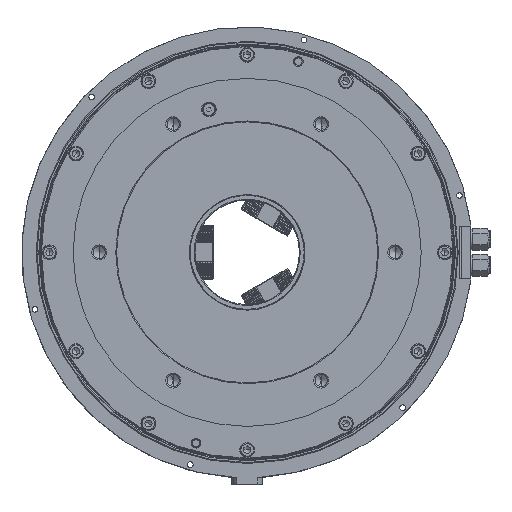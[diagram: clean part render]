
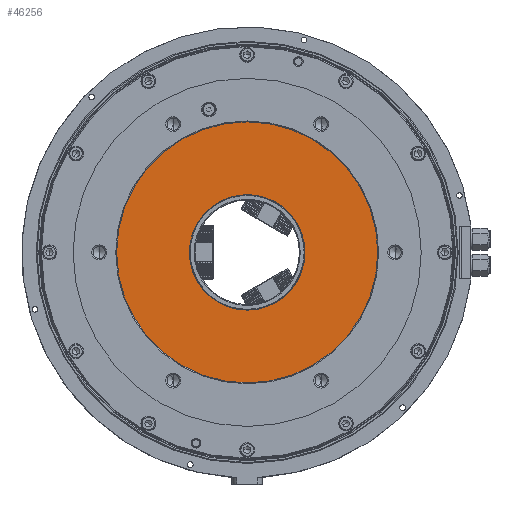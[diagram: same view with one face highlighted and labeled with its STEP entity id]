
A CAD part, left-side view. The second image highlights one B-rep face of the part: STEP entity #46256.
In plain terms, the highlighted planar face has unit normal (-1, 0, 0).
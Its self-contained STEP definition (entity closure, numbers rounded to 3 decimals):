
#5489 = CIRCLE ( 'NONE', #78132, 150. ) ;
#6608 = DIRECTION ( 'NONE',  ( 1., 0., 0. ) ) ;
#7748 = CARTESIAN_POINT ( 'NONE',  ( -192., 0., 0. ) ) ;
#8240 = DIRECTION ( 'NONE',  ( -1., 0., 0. ) ) ;
#18324 = VERTEX_POINT ( 'NONE', #86718 ) ;
#19642 = DIRECTION ( 'NONE',  ( 0., 0., -1. ) ) ;
#25839 = VERTEX_POINT ( 'NONE', #154888 ) ;
#36874 = AXIS2_PLACEMENT_3D ( 'NONE', #65416, #6608, #42671 ) ;
#37664 = ORIENTED_EDGE ( 'NONE', *, *, #86798, .F. ) ;
#42671 = DIRECTION ( 'NONE',  ( 0., 0., -1. ) ) ;
#44580 = DIRECTION ( 'NONE',  ( 0., 0., -1. ) ) ;
#46256 = ADVANCED_FACE ( 'NONE', ( #151665, #78029 ), #124318, .T. ) ;
#47506 = ORIENTED_EDGE ( 'NONE', *, *, #139270, .T. ) ;
#52579 = CARTESIAN_POINT ( 'NONE',  ( -192., 0., 150. ) ) ;
#54502 = DIRECTION ( 'NONE',  ( 0., 0., 1. ) ) ;
#55126 = CIRCLE ( 'NONE', #100247, 66.4 ) ;
#65416 = CARTESIAN_POINT ( 'NONE',  ( -192., 0., 0. ) ) ;
#70721 = AXIS2_PLACEMENT_3D ( 'NONE', #88243, #8240, #54502 ) ;
#73505 = CARTESIAN_POINT ( 'NONE',  ( -192., 0., 0. ) ) ;
#78029 = FACE_OUTER_BOUND ( 'NONE', #78832, .T. ) ;
#78132 = AXIS2_PLACEMENT_3D ( 'NONE', #90218, #79237, #19642 ) ;
#78832 = EDGE_LOOP ( 'NONE', ( #37664, #104785 ) ) ;
#79237 = DIRECTION ( 'NONE',  ( 1., 0., 0. ) ) ;
#79649 = EDGE_CURVE ( 'NONE', #122450, #25839, #55126, .T. ) ;
#79985 = AXIS2_PLACEMENT_3D ( 'NONE', #7748, #116695, #44580 ) ;
#86718 = CARTESIAN_POINT ( 'NONE',  ( -192., 0., -150. ) ) ;
#86798 = EDGE_CURVE ( 'NONE', #18324, #93732, #5489, .T. ) ;
#86910 = CIRCLE ( 'NONE', #36874, 66.4 ) ;
#88243 = CARTESIAN_POINT ( 'NONE',  ( -192., 150., 0. ) ) ;
#90167 = EDGE_LOOP ( 'NONE', ( #47506, #96170 ) ) ;
#90218 = CARTESIAN_POINT ( 'NONE',  ( -192., 0., 0. ) ) ;
#93732 = VERTEX_POINT ( 'NONE', #52579 ) ;
#96170 = ORIENTED_EDGE ( 'NONE', *, *, #79649, .T. ) ;
#98595 = DIRECTION ( 'NONE',  ( 1., 0., 0. ) ) ;
#100247 = AXIS2_PLACEMENT_3D ( 'NONE', #73505, #98595, #144833 ) ;
#104785 = ORIENTED_EDGE ( 'NONE', *, *, #151345, .F. ) ;
#116695 = DIRECTION ( 'NONE',  ( 1., 0., 0. ) ) ;
#122450 = VERTEX_POINT ( 'NONE', #126281 ) ;
#124318 = PLANE ( 'NONE',  #70721 ) ;
#126281 = CARTESIAN_POINT ( 'NONE',  ( -192., 0., -66.4 ) ) ;
#127572 = CIRCLE ( 'NONE', #79985, 150. ) ;
#139270 = EDGE_CURVE ( 'NONE', #25839, #122450, #86910, .T. ) ;
#144833 = DIRECTION ( 'NONE',  ( 0., 0., -1. ) ) ;
#151345 = EDGE_CURVE ( 'NONE', #93732, #18324, #127572, .T. ) ;
#151665 = FACE_BOUND ( 'NONE', #90167, .T. ) ;
#154888 = CARTESIAN_POINT ( 'NONE',  ( -192., 0., 66.4 ) ) ;
